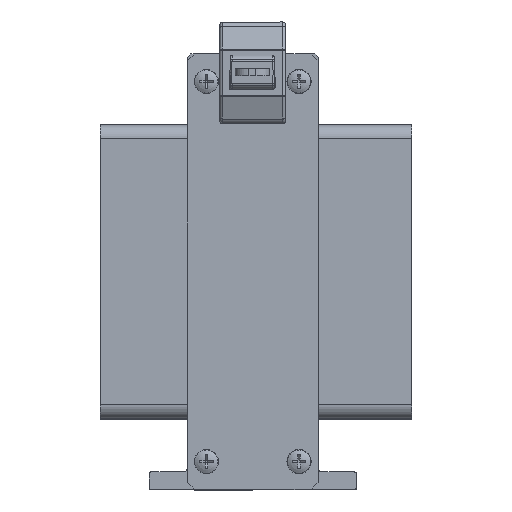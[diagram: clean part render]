
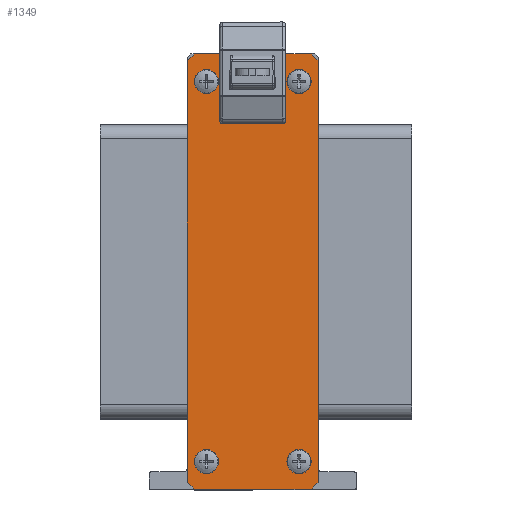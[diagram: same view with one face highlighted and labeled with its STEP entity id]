
A CAD part, top view. The second image highlights one B-rep face of the part: STEP entity #1349.
In plain terms, the highlighted planar face has unit normal (0, 0, 1).
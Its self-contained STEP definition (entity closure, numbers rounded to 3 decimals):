
#1142=CARTESIAN_POINT('',(-16.9,0.,122.));
#1143=VERTEX_POINT('',#1142);
#1144=CARTESIAN_POINT('',(-18.9,2.,122.));
#1145=VERTEX_POINT('',#1144);
#1146=CARTESIAN_POINT('',(-16.9,0.,122.));
#1147=DIRECTION('',(-0.707,0.707,0.0));
#1148=VECTOR('',#1147,2.828);
#1149=LINE('',#1146,#1148);
#1150=EDGE_CURVE('',#1143,#1145,#1149,.T.);
#1177=CARTESIAN_POINT('',(0.,63.,122.));
#1178=DIRECTION('',(0.0,0.0,1.0));
#1179=DIRECTION('',(1.0,0.0,0.0));
#1180=AXIS2_PLACEMENT_3D('',#1177,#1178,#1179);
#1181=PLANE('',#1180);
#1182=CARTESIAN_POINT('',(-16.9,126.,122.));
#1183=VERTEX_POINT('',#1182);
#1184=CARTESIAN_POINT('',(16.9,126.,122.));
#1185=VERTEX_POINT('',#1184);
#1186=CARTESIAN_POINT('',(-16.9,126.,122.));
#1187=DIRECTION('',(1.0,0.0,0.0));
#1188=VECTOR('',#1187,33.8);
#1189=LINE('',#1186,#1188);
#1190=EDGE_CURVE('',#1183,#1185,#1189,.T.);
#1191=ORIENTED_EDGE('',*,*,#1190,.F.);
#1192=CARTESIAN_POINT('',(-18.9,124.,122.));
#1193=VERTEX_POINT('',#1192);
#1194=CARTESIAN_POINT('',(-18.9,124.,122.));
#1195=DIRECTION('',(0.707,0.707,0.0));
#1196=VECTOR('',#1195,2.828);
#1197=LINE('',#1194,#1196);
#1198=EDGE_CURVE('',#1193,#1183,#1197,.T.);
#1199=ORIENTED_EDGE('',*,*,#1198,.F.);
#1200=CARTESIAN_POINT('',(-18.9,2.,122.));
#1201=DIRECTION('',(0.0,1.0,0.0));
#1202=VECTOR('',#1201,122.);
#1203=LINE('',#1200,#1202);
#1204=EDGE_CURVE('',#1145,#1193,#1203,.T.);
#1205=ORIENTED_EDGE('',*,*,#1204,.F.);
#1206=ORIENTED_EDGE('',*,*,#1150,.F.);
#1207=CARTESIAN_POINT('',(16.9,0.0,122.));
#1208=VERTEX_POINT('',#1207);
#1209=CARTESIAN_POINT('',(16.9,0.0,122.));
#1210=DIRECTION('',(-1.0,0.0,0.0));
#1211=VECTOR('',#1210,33.8);
#1212=LINE('',#1209,#1211);
#1213=EDGE_CURVE('',#1208,#1143,#1212,.T.);
#1214=ORIENTED_EDGE('',*,*,#1213,.F.);
#1215=CARTESIAN_POINT('',(18.9,2.,122.));
#1216=VERTEX_POINT('',#1215);
#1217=CARTESIAN_POINT('',(18.9,2.,122.));
#1218=DIRECTION('',(-0.707,-0.707,0.0));
#1219=VECTOR('',#1218,2.828);
#1220=LINE('',#1217,#1219);
#1221=EDGE_CURVE('',#1216,#1208,#1220,.T.);
#1222=ORIENTED_EDGE('',*,*,#1221,.F.);
#1223=CARTESIAN_POINT('',(18.9,124.,122.));
#1224=VERTEX_POINT('',#1223);
#1225=CARTESIAN_POINT('',(18.9,124.,122.));
#1226=DIRECTION('',(0.0,-1.0,0.0));
#1227=VECTOR('',#1226,122.);
#1228=LINE('',#1225,#1227);
#1229=EDGE_CURVE('',#1224,#1216,#1228,.T.);
#1230=ORIENTED_EDGE('',*,*,#1229,.F.);
#1231=CARTESIAN_POINT('',(16.9,126.,122.));
#1232=DIRECTION('',(0.707,-0.707,0.0));
#1233=VECTOR('',#1232,2.828);
#1234=LINE('',#1231,#1233);
#1235=EDGE_CURVE('',#1185,#1224,#1234,.T.);
#1236=ORIENTED_EDGE('',*,*,#1235,.F.);
#1237=EDGE_LOOP('',(#1191,#1199,#1205,#1206,#1214,#1222,#1230,#1236));
#1238=FACE_OUTER_BOUND('',#1237,.T.);
#1239=CARTESIAN_POINT('',(6.5,123.106,122.));
#1240=VERTEX_POINT('',#1239);
#1241=CARTESIAN_POINT('',(6.5,123.3,122.));
#1242=VERTEX_POINT('',#1241);
#1243=CARTESIAN_POINT('',(6.5,123.106,122.));
#1244=DIRECTION('',(0.0,1.0,0.0));
#1245=VECTOR('',#1244,0.194);
#1246=LINE('',#1243,#1245);
#1247=EDGE_CURVE('',#1240,#1242,#1246,.T.);
#1248=ORIENTED_EDGE('',*,*,#1247,.F.);
#1249=CARTESIAN_POINT('',(8.75,123.106,122.));
#1250=VERTEX_POINT('',#1249);
#1251=CARTESIAN_POINT('',(8.75,123.106,122.));
#1252=DIRECTION('',(-1.0,0.0,0.0));
#1253=VECTOR('',#1252,2.25);
#1254=LINE('',#1251,#1253);
#1255=EDGE_CURVE('',#1250,#1240,#1254,.T.);
#1256=ORIENTED_EDGE('',*,*,#1255,.F.);
#1257=CARTESIAN_POINT('',(8.75,106.8,122.));
#1258=VERTEX_POINT('',#1257);
#1259=CARTESIAN_POINT('',(8.75,106.8,122.));
#1260=DIRECTION('',(0.0,1.0,0.0));
#1261=VECTOR('',#1260,16.306);
#1262=LINE('',#1259,#1261);
#1263=EDGE_CURVE('',#1258,#1250,#1262,.T.);
#1264=ORIENTED_EDGE('',*,*,#1263,.F.);
#1265=CARTESIAN_POINT('',(-8.75,106.8,122.));
#1266=VERTEX_POINT('',#1265);
#1267=CARTESIAN_POINT('',(8.75,106.8,122.));
#1268=DIRECTION('',(-1.0,0.0,0.0));
#1269=VECTOR('',#1268,17.5);
#1270=LINE('',#1267,#1269);
#1271=EDGE_CURVE('',#1258,#1266,#1270,.T.);
#1272=ORIENTED_EDGE('',*,*,#1271,.T.);
#1273=CARTESIAN_POINT('',(-8.75,123.106,122.));
#1274=VERTEX_POINT('',#1273);
#1275=CARTESIAN_POINT('',(-8.75,106.8,122.));
#1276=DIRECTION('',(0.0,1.0,0.0));
#1277=VECTOR('',#1276,16.306);
#1278=LINE('',#1275,#1277);
#1279=EDGE_CURVE('',#1266,#1274,#1278,.T.);
#1280=ORIENTED_EDGE('',*,*,#1279,.T.);
#1281=CARTESIAN_POINT('',(-6.5,123.106,122.));
#1282=VERTEX_POINT('',#1281);
#1283=CARTESIAN_POINT('',(-8.75,123.106,122.));
#1284=DIRECTION('',(1.0,0.0,0.0));
#1285=VECTOR('',#1284,2.25);
#1286=LINE('',#1283,#1285);
#1287=EDGE_CURVE('',#1274,#1282,#1286,.T.);
#1288=ORIENTED_EDGE('',*,*,#1287,.T.);
#1289=CARTESIAN_POINT('',(-6.5,123.3,122.));
#1290=VERTEX_POINT('',#1289);
#1291=CARTESIAN_POINT('',(-6.5,123.3,122.));
#1292=DIRECTION('',(0.0,-1.0,0.0));
#1293=VECTOR('',#1292,0.194);
#1294=LINE('',#1291,#1293);
#1295=EDGE_CURVE('',#1290,#1282,#1294,.T.);
#1296=ORIENTED_EDGE('',*,*,#1295,.F.);
#1297=CARTESIAN_POINT('',(6.5,123.3,122.));
#1298=DIRECTION('',(-1.0,0.0,0.0));
#1299=VECTOR('',#1298,13.);
#1300=LINE('',#1297,#1299);
#1301=EDGE_CURVE('',#1242,#1290,#1300,.T.);
#1302=ORIENTED_EDGE('',*,*,#1301,.F.);
#1303=EDGE_LOOP('',(#1248,#1256,#1264,#1272,#1280,#1288,#1296,#1302));
#1304=FACE_BOUND('',#1303,.T.);
#1305=CARTESIAN_POINT('',(13.4,11.5,122.));
#1306=VERTEX_POINT('',#1305);
#1307=CARTESIAN_POINT('',(13.4,8.,122.));
#1308=DIRECTION('',(0.0,0.0,-1.0));
#1309=DIRECTION('',(0.0,1.0,0.0));
#1310=AXIS2_PLACEMENT_3D('',#1307,#1308,#1309);
#1311=CIRCLE('',#1310,3.5);
#1312=EDGE_CURVE('',#1306,#1306,#1311,.T.);
#1313=ORIENTED_EDGE('',*,*,#1312,.T.);
#1314=EDGE_LOOP('',(#1313));
#1315=FACE_BOUND('',#1314,.T.);
#1316=CARTESIAN_POINT('',(13.4,121.5,122.));
#1317=VERTEX_POINT('',#1316);
#1318=CARTESIAN_POINT('',(13.4,118.,122.));
#1319=DIRECTION('',(0.0,0.0,-1.0));
#1320=DIRECTION('',(0.0,1.0,0.0));
#1321=AXIS2_PLACEMENT_3D('',#1318,#1319,#1320);
#1322=CIRCLE('',#1321,3.5);
#1323=EDGE_CURVE('',#1317,#1317,#1322,.T.);
#1324=ORIENTED_EDGE('',*,*,#1323,.T.);
#1325=EDGE_LOOP('',(#1324));
#1326=FACE_BOUND('',#1325,.T.);
#1327=CARTESIAN_POINT('',(-13.4,11.5,122.));
#1328=VERTEX_POINT('',#1327);
#1329=CARTESIAN_POINT('',(-13.4,8.,122.));
#1330=DIRECTION('',(0.0,0.0,-1.0));
#1331=DIRECTION('',(0.0,1.0,0.0));
#1332=AXIS2_PLACEMENT_3D('',#1329,#1330,#1331);
#1333=CIRCLE('',#1332,3.5);
#1334=EDGE_CURVE('',#1328,#1328,#1333,.T.);
#1335=ORIENTED_EDGE('',*,*,#1334,.T.);
#1336=EDGE_LOOP('',(#1335));
#1337=FACE_BOUND('',#1336,.T.);
#1338=CARTESIAN_POINT('',(-13.4,121.5,122.));
#1339=VERTEX_POINT('',#1338);
#1340=CARTESIAN_POINT('',(-13.4,118.,122.));
#1341=DIRECTION('',(0.0,0.0,-1.0));
#1342=DIRECTION('',(0.0,1.0,0.0));
#1343=AXIS2_PLACEMENT_3D('',#1340,#1341,#1342);
#1344=CIRCLE('',#1343,3.5);
#1345=EDGE_CURVE('',#1339,#1339,#1344,.T.);
#1346=ORIENTED_EDGE('',*,*,#1345,.T.);
#1347=EDGE_LOOP('',(#1346));
#1348=FACE_BOUND('',#1347,.T.);
#1349=ADVANCED_FACE('',(#1238,#1304,#1315,#1326,#1337,#1348),#1181,.T.);
